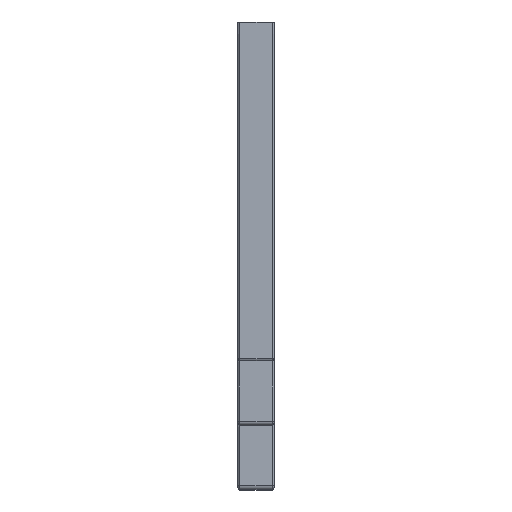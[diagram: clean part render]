
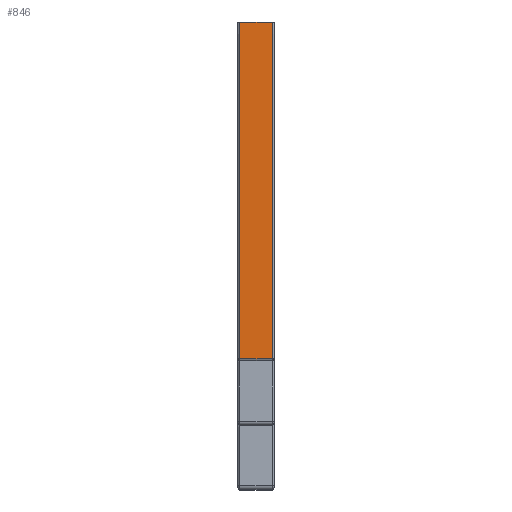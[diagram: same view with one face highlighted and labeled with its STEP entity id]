
A CAD part, top view. The second image highlights one B-rep face of the part: STEP entity #846.
In plain terms, the highlighted planar face has unit normal (0, 0, 1).
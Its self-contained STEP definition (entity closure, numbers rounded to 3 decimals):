
#41 = EDGE_CURVE ( 'NONE', #4610, #1676, #3164, .T. ) ;
#132 = DIRECTION ( 'NONE',  ( 0., -1., 0. ) ) ;
#433 = VECTOR ( 'NONE', #3383, 1000. ) ;
#689 = CARTESIAN_POINT ( 'NONE',  ( 30.095, -48.682, 342. ) ) ;
#846 = ADVANCED_FACE ( 'NONE', ( #5474 ), #1977, .F. ) ;
#1583 = LINE ( 'NONE', #689, #6154 ) ;
#1676 = VERTEX_POINT ( 'NONE', #5216 ) ;
#1814 = DIRECTION ( 'NONE',  ( 0., 1., 0. ) ) ;
#1977 = PLANE ( 'NONE',  #2724 ) ;
#2247 = CARTESIAN_POINT ( 'NONE',  ( 22.095, -48.682, 342. ) ) ;
#2401 = DIRECTION ( 'NONE',  ( 0., 0., -1. ) ) ;
#2567 = ORIENTED_EDGE ( 'NONE', *, *, #41, .T. ) ;
#2724 = AXIS2_PLACEMENT_3D ( 'NONE', #5842, #2401, #5392 ) ;
#3022 = VECTOR ( 'NONE', #3715, 1000. ) ;
#3164 = LINE ( 'NONE', #3670, #3022 ) ;
#3317 = EDGE_CURVE ( 'NONE', #4657, #1676, #1583, .T. ) ;
#3383 = DIRECTION ( 'NONE',  ( -1., 0., 0. ) ) ;
#3441 = ORIENTED_EDGE ( 'NONE', *, *, #3317, .F. ) ;
#3626 = CARTESIAN_POINT ( 'NONE',  ( 22.095, -49.182, 342. ) ) ;
#3670 = CARTESIAN_POINT ( 'NONE',  ( 30.095, -49.182, 342. ) ) ;
#3715 = DIRECTION ( 'NONE',  ( 1., 0., 0. ) ) ;
#3833 = ORIENTED_EDGE ( 'NONE', *, *, #5643, .F. ) ;
#4275 = CARTESIAN_POINT ( 'NONE',  ( 22.095, 34.518, 342. ) ) ;
#4521 = EDGE_CURVE ( 'NONE', #4657, #4970, #5494, .T. ) ;
#4529 = CARTESIAN_POINT ( 'NONE',  ( 30.095, 34.518, 342. ) ) ;
#4610 = VERTEX_POINT ( 'NONE', #3626 ) ;
#4657 = VERTEX_POINT ( 'NONE', #4529 ) ;
#4818 = VECTOR ( 'NONE', #1814, 1000. ) ;
#4902 = CARTESIAN_POINT ( 'NONE',  ( 69.595, 34.518, 342. ) ) ;
#4970 = VERTEX_POINT ( 'NONE', #4275 ) ;
#5053 = LINE ( 'NONE', #2247, #4818 ) ;
#5216 = CARTESIAN_POINT ( 'NONE',  ( 30.095, -49.182, 342. ) ) ;
#5392 = DIRECTION ( 'NONE',  ( -1., 0., 0. ) ) ;
#5474 = FACE_OUTER_BOUND ( 'NONE', #5664, .T. ) ;
#5494 = LINE ( 'NONE', #4902, #433 ) ;
#5643 = EDGE_CURVE ( 'NONE', #4610, #4970, #5053, .T. ) ;
#5664 = EDGE_LOOP ( 'NONE', ( #3833, #2567, #3441, #6356 ) ) ;
#5842 = CARTESIAN_POINT ( 'NONE',  ( 96.595, -48.682, 342. ) ) ;
#6154 = VECTOR ( 'NONE', #132, 1000. ) ;
#6356 = ORIENTED_EDGE ( 'NONE', *, *, #4521, .T. ) ;
